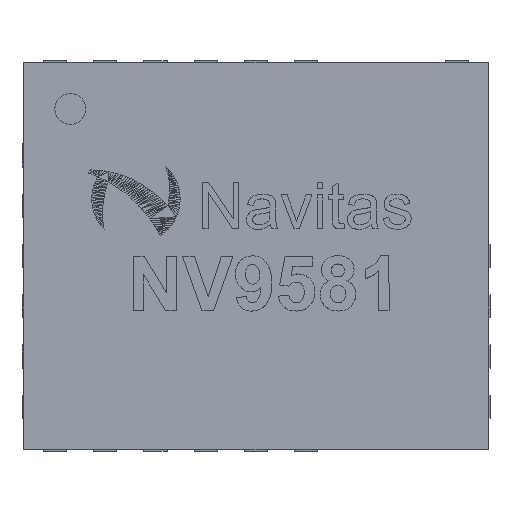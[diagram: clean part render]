
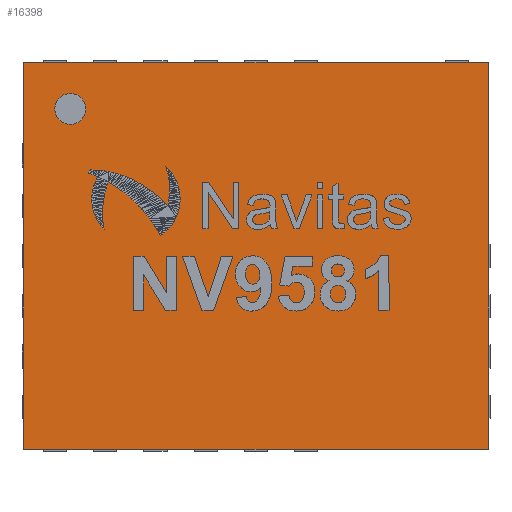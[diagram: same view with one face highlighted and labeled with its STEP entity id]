
A CAD part, top view. The second image highlights one B-rep face of the part: STEP entity #16398.
In plain terms, the highlighted planar face has unit normal (0, 0, 1).
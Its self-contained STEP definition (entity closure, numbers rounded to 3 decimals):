
#655=FACE_OUTER_BOUND('',#1916,.T.);
#1916=EDGE_LOOP('',(#10639,#10640,#10641,#10642));
#3184=LINE('',#22992,#5154);
#3188=LINE('',#22999,#5158);
#3191=LINE('',#23006,#5161);
#3193=LINE('',#23009,#5163);
#5154=VECTOR('',#18806,10.);
#5158=VECTOR('',#18812,10.);
#5161=VECTOR('',#18819,10.);
#5163=VECTOR('',#18823,10.);
#7124=VERTEX_POINT('',#22989);
#7125=VERTEX_POINT('',#22991);
#7127=VERTEX_POINT('',#22997);
#7129=VERTEX_POINT('',#23005);
#8269=EDGE_CURVE('',#7124,#7125,#3184,.T.);
#8273=EDGE_CURVE('',#7127,#7124,#3188,.T.);
#8276=EDGE_CURVE('',#7125,#7129,#3191,.T.);
#8278=EDGE_CURVE('',#7129,#7127,#3193,.T.);
#10639=ORIENTED_EDGE('',*,*,#8278,.F.);
#10640=ORIENTED_EDGE('',*,*,#8276,.F.);
#10641=ORIENTED_EDGE('',*,*,#8269,.F.);
#10642=ORIENTED_EDGE('',*,*,#8273,.F.);
#15328=PLANE('',#17699);
#16398=ADVANCED_FACE('',(#655),#15328,.F.);
#17699=AXIS2_PLACEMENT_3D('',#23010,#18824,#18825);
#18806=DIRECTION('',(0.,1.,0.));
#18812=DIRECTION('',(-1.,0.,0.));
#18819=DIRECTION('',(1.,0.,0.));
#18823=DIRECTION('',(0.,-1.,0.));
#18824=DIRECTION('center_axis',(0.,0.,-1.));
#18825=DIRECTION('ref_axis',(-1.,0.,0.));
#22989=CARTESIAN_POINT('',(-6.,0.,1.7));
#22991=CARTESIAN_POINT('',(-6.,5.,1.7));
#22992=CARTESIAN_POINT('',(-6.,0.,1.7));
#22997=CARTESIAN_POINT('',(0.,0.,1.7));
#22999=CARTESIAN_POINT('',(0.,0.,1.7));
#23005=CARTESIAN_POINT('',(0.,5.,1.7));
#23006=CARTESIAN_POINT('',(-6.,5.,1.7));
#23009=CARTESIAN_POINT('',(0.,5.,1.7));
#23010=CARTESIAN_POINT('Origin',(-3.,2.5,1.7));
